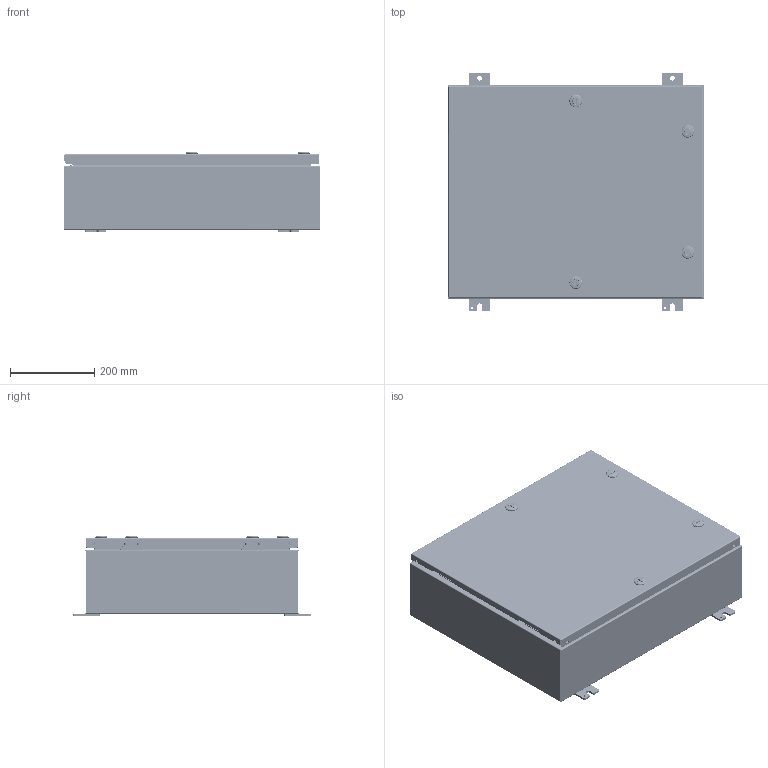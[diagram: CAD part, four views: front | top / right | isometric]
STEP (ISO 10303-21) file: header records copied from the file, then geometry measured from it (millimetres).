
FILE_DESCRIPTION((''),'2;1');
FILE_NAME('C:\Vault_Workspace\Inventor_Dwg\BoxCad\Result\5412ESPR202406\e-mail\3D\5412ESPR202406.stp','2014-04-08T03:24:06',(''),(''),'Autodesk Inventor 2012','Autodesk Inventor 2012','');
FILE_SCHEMA(('AUTOMOTIVE_DESIGN { 1 0 10303 214 1 1 1 1 }'));
Length unit declared in the file: inch
Products named in the file (39): 5412ESPR202406; 5412ESPR202406B; 5412ESPR202406B-P; STK-Q-16080; STK-Q-16005; STK-Q-71000; STK-P-02400S; STK-Q-07610; 881SP2420; 881SP2420-P; STK-P-02401S; STK-Q-07310; 5412ESPR202406C; 5412ESPR202406C-P; 5412ESPR202406G; STK-Q-33105; STK-A-33005PR-1; STK-Q-33005PR; STK-Q-90260; STK-Q-40010-1; STK-Q-40010-A; STK-Q-40010-B; STK-A-33005PR-2; STK-A-880SCQ4-SL-1; STK-Q-78110; STK-Q-78120; STK-Q-78145; STK-Q-03200; STK-Q-78125; STK-Q-78140; STK-Q-90390; STK-Q-78160; STK-A-880SCQ4-SL-2; STK-A-880SCQ4-SL-5; STK-A-880SCQ4-SL-6; STK-S-00100; STK-Q-03000; STK-A-01800; STK-A-880PP
Assembly tree (85 placements, depth 5):
  5412ESPR202406
    5412ESPR202406B
      5412ESPR202406B-P
      STK-Q-16080
      STK-Q-16005  x4
      STK-Q-71000  x4
      STK-P-02400S
    STK-Q-07610  x4
    881SP2420
      881SP2420-P
      STK-P-02401S
    STK-Q-07310  x4
    5412ESPR202406C
      5412ESPR202406C-P
      5412ESPR202406G
      STK-Q-33105  x2
      STK-A-33005PR-1
        STK-Q-33005PR
        STK-Q-90260  x2
        STK-Q-40010-1
          STK-Q-40010-A
          STK-Q-40010-B
      STK-A-33005PR-2
        STK-Q-33005PR
        STK-Q-90260  x2
        STK-Q-40010-1
          STK-Q-40010-A
          STK-Q-40010-B
      STK-A-880SCQ4-SL-1
        STK-Q-78110
        STK-Q-78120
        STK-Q-78145
        STK-Q-03200
        STK-Q-78125
        STK-Q-78140
        STK-Q-90390
        STK-Q-78160
      STK-A-880SCQ4-SL-2
        STK-Q-78110
        STK-Q-78120
        STK-Q-78145
        STK-Q-03200
        STK-Q-78125
        STK-Q-78140
        STK-Q-90390
        STK-Q-78160
      STK-A-880SCQ4-SL-5
        STK-Q-78110
        STK-Q-78120
        STK-Q-78145
        STK-Q-03200
        STK-Q-78125
        STK-Q-78140
        STK-Q-90390
        STK-Q-78160
      STK-A-880SCQ4-SL-6
        STK-Q-78110
        STK-Q-78120
        STK-Q-78145
        STK-Q-03200
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Bounding box: 609.6 x 565.16 x 188.79 mm (x, y, z)
Volume: 2568660.2 mm3; surface area: 2952153.1 mm2
Topology: 71 solids, 71 shells, 7436 faces, 19773 edges, 12448 vertices
Faces by surface type: plane 2873, bspline 2176, cylinder 1717, torus 366, cone 176, sphere 128
Full cylindrical faces by diameter (mm): 0.75 x6, 0.762 x10, 2.375 x4, 4.75 x4, 5 x4, 5.1 x40, 5.156 x4, 5.5 x2, 6.3 x4, 6.65 x4, 7 x4, 7.366 x7, 7.9 x4, 8 x8, 9.6 x4, 10 x4, 10.5 x2, 11.1 x4, 12.8 x4, 13 x4, 15.9 x4, 16 x4, 18.2 x4, 19.7 x4, 29 x4
Entity records: 98326 total; most frequent: CARTESIAN_POINT 44898, ORIENTED_EDGE 12062, DIRECTION 8807, EDGE_CURVE 6031, VERTEX_POINT 3865, AXIS2_PLACEMENT_3D 3057, VECTOR 2693, LINE 2693
